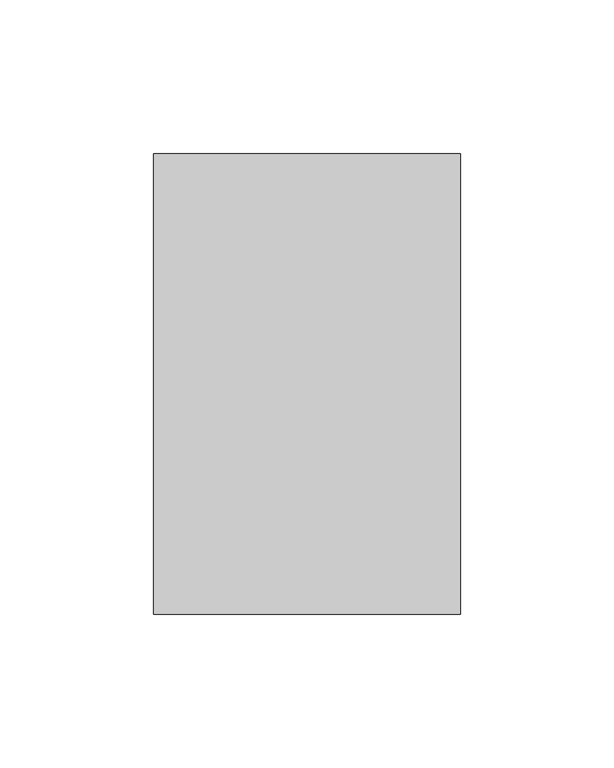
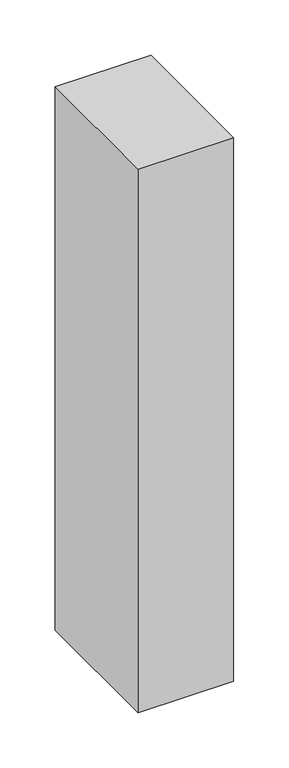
"""IFC4 building model written with IfcOpenShell, lengths in millimetres: member geometry, 矩形竖梃 : 教学楼 – 矩形竖梃 – 100x150mm."""

import ifcopenshell
import ifcopenshell.guid

model = None  # the IFC model being written
_history = None  # IfcOwnerHistory: only IFC2X3 demands one
_inside = {}  # id of a spatial element -> (the spatial element, [elements in it])
_under = {}  # id of a project, library or spatial element -> (it, [spatial elements below it])
_declared = {}  # id of a project -> (the project, [libraries it declares])
_typed = {}  # id of a type object -> (the type object, [elements of that type])
_made_of = {}  # id of a material, layer set ... -> (it, [elements and type objects made of it])


def new_model(schema):
    """Start an empty IFC model of exactly this schema.

    Asked for "IFC4X3", IfcOpenShell would pick the latest addendum, in which some entities
    have other attributes; the version numbers below select the first issue.
    IFC2X3 requires an IfcOwnerHistory on every rooted entity: one is made here for all.
    """
    global model, _history
    if schema == "IFC4X3":
        model = ifcopenshell.file(schema_version=(4, 3, 0, 0))
    else:
        model = ifcopenshell.file(schema=schema)
    _inside.clear()
    _under.clear()
    _declared.clear()
    _typed.clear()
    _made_of.clear()
    _history = None
    if model.schema == "IFC2X3":
        org = make("IfcOrganization", Name="unknown")
        user = make(
            "IfcPersonAndOrganization",
            ThePerson=make("IfcPerson", FamilyName="unknown"),
            TheOrganization=org,
        )
        app = make(
            "IfcApplication",
            ApplicationDeveloper=org,
            Version="unknown",
            ApplicationFullName="unknown",
            ApplicationIdentifier="unknown",
        )
        _history = make(
            "IfcOwnerHistory",
            OwningUser=user,
            OwningApplication=app,
            ChangeAction="ADDED",
            CreationDate=0,
        )
    return model


def make(cls, **values):
    """One entity of the class cls with the attributes given. An attribute that is None is left unset."""
    return model.create_entity(
        cls, **{name: value for name, value in values.items() if value is not None}
    )


def rooted(cls, **values):
    """An entity with a GlobalId (a new one), such as an element, a storey or a relation."""
    return make(cls, GlobalId=ifcopenshell.guid.new(), OwnerHistory=_history, **values)


def si_unit(unit_type, name, prefix=None):
    """IfcSIUnit, for example si_unit("LENGTHUNIT", "METRE", prefix="MILLI")."""
    return make("IfcSIUnit", UnitType=unit_type, Prefix=prefix, Name=name)


def assignment(units):
    """IfcUnitAssignment: the units of a project."""
    return None if units is None else make("IfcUnitAssignment", Units=units)


def point(xyz):
    """IfcCartesianPoint."""
    return None if xyz is None else make("IfcCartesianPoint", Coordinates=xyz)


def direction(xyz):
    """IfcDirection."""
    return None if xyz is None else make("IfcDirection", DirectionRatios=xyz)


def frame(location, z_axis=None, x_axis=None):
    """IfcAxis2Placement3D, a coordinate frame: its origin and axes. An axis left out is left unset."""
    return make(
        "IfcAxis2Placement3D",
        Location=point(location),
        Axis=direction(z_axis),
        RefDirection=direction(x_axis),
    )


def origin():
    """The frame at (0, 0, 0) with its axes left unset."""
    return frame((0.0, 0.0, 0.0))


def place(relative_to, where):
    """IfcLocalPlacement: puts the frame where relative to a parent placement (None: the world)."""
    return make(
        "IfcLocalPlacement", PlacementRelTo=relative_to, RelativePlacement=where
    )


def context(
    kind, dimensions, precision=None, world=None, true_north=None, identifier=None
):
    """IfcGeometricRepresentationContext, for example the 3D "Model" context."""
    return make(
        "IfcGeometricRepresentationContext",
        ContextIdentifier=identifier,
        ContextType=kind,
        CoordinateSpaceDimension=dimensions,
        Precision=precision,
        WorldCoordinateSystem=world,
        TrueNorth=true_north,
    )


def project(units=None, contexts=None):
    """IfcProject with its units and contexts."""
    return rooted(
        "IfcProject",
        Name="project",
        RepresentationContexts=contexts,
        UnitsInContext=assignment(units),
    )


def spatial(cls, under=None, at=None, **own):
    """A site, building, storey or space (cls), placed at a placement, below another one or the project."""
    s = rooted(cls, ObjectPlacement=at, **own)
    if under is not None:
        _under.setdefault(under.id(), (under, []))[1].append(s)
    return s


def polyline(points):
    """IfcPolyline through the points."""
    return make("IfcPolyline", Points=[point(p) for p in points])


def outline(outer, holes=None, kind="AREA"):
    """IfcArbitraryClosedProfileDef: a profile drawn as a closed curve; with holes, ...WithVoids."""
    if holes is None:
        return make("IfcArbitraryClosedProfileDef", ProfileType=kind, OuterCurve=outer)
    return make(
        "IfcArbitraryProfileDefWithVoids",
        ProfileType=kind,
        OuterCurve=outer,
        InnerCurves=holes,
    )


def extrude(swept, where, along, depth):
    """IfcExtrudedAreaSolid: the profile swept, set in the frame where, extruded along a direction by depth."""
    return make(
        "IfcExtrudedAreaSolid",
        SweptArea=swept,
        Position=where,
        ExtrudedDirection=direction(along),
        Depth=depth,
    )


def shape(context_of_items, identifier, shape_type, items):
    """IfcShapeRepresentation: the items that make up one representation, for example the "Body"."""
    return make(
        "IfcShapeRepresentation",
        ContextOfItems=context_of_items,
        RepresentationIdentifier=identifier,
        RepresentationType=shape_type,
        Items=items,
    )


def source(mapping_origin, context_of_items, identifier, shape_type, items):
    """IfcRepresentationMap: a shape defined once, which mapped items show again and again."""
    return make(
        "IfcRepresentationMap",
        MappingOrigin=mapping_origin,
        MappedRepresentation=shape(context_of_items, identifier, shape_type, items),
    )


def transform(
    local_origin,
    x_axis=None,
    y_axis=None,
    z_axis=None,
    scale=None,
    scale2=None,
    scale3=None,
    uniform=True,
):
    """IfcCartesianTransformationOperator3D, or its non-uniform kind. x_axis, y_axis, z_axis: its Axis1, 2, 3."""
    if uniform:
        return make(
            "IfcCartesianTransformationOperator3D",
            Axis1=direction(x_axis),
            Axis2=direction(y_axis),
            LocalOrigin=point(local_origin),
            Scale=scale,
            Axis3=direction(z_axis),
        )
    return make(
        "IfcCartesianTransformationOperator3DnonUniform",
        Axis1=direction(x_axis),
        Axis2=direction(y_axis),
        LocalOrigin=point(local_origin),
        Scale=scale,
        Axis3=direction(z_axis),
        Scale2=scale2,
        Scale3=scale3,
    )


def mapped(mapping_source, mapping_target):
    """IfcMappedItem: shows the shape of a source again, moved by a transform."""
    return make(
        "IfcMappedItem", MappingSource=mapping_source, MappingTarget=mapping_target
    )


def made_of(thing, what):
    """Note that an element or type object is made of a material, layer set ...; save() writes the relation."""
    if what is not None:
        _made_of.setdefault(what.id(), (what, []))[1].append(thing)
    return thing


def element(
    cls,
    number,
    at=None,
    inside=None,
    cuts=None,
    type_object=None,
    material=None,
    context=None,
    identifier="Body",
    shape_type=None,
    held_by="IfcProductDefinitionShape",
    body=None,
    shapes=None,
    **own,
):
    """One element of the class cls, such as IfcWall. Its Tag is "e" and its number.

    at: its placement. inside: the storey or other place that contains it. cuts: it is an
    opening in that element (IfcRelVoidsElement). A single representation is given by context,
    identifier, shape_type and body (its items); several are given by shapes. held_by: the class
    of the entity that holds the representations. save() writes the other relations.
    """
    e = rooted(cls, Tag="e%d" % number, ObjectPlacement=at, **own)
    if body is not None:
        shapes = [shape(context, identifier, shape_type, body)]
    if shapes is not None:
        e.Representation = make(held_by, Representations=shapes)
    if inside is not None:
        _inside.setdefault(inside.id(), (inside, []))[1].append(e)
    if cuts is not None:
        rooted(
            "IfcRelVoidsElement", RelatingBuildingElement=cuts, RelatedOpeningElement=e
        )
    if type_object is not None:
        _typed.setdefault(type_object.id(), (type_object, []))[1].append(e)
    return made_of(e, material)


def aggregate(whole, parts):
    """IfcRelAggregates: a whole, such as a stair, and the parts it consists of."""
    return rooted("IfcRelAggregates", RelatingObject=whole, RelatedObjects=parts)


def save(model, path):
    """Write the relations noted so far, then the file.

    IfcRelAggregates (storeys below a building ...), IfcRelContainedInSpatialStructure (elements
    in a storey), IfcRelDefinesByType, IfcRelAssociatesMaterial and IfcRelDeclares: one each for
    every whole, place, type object, material and project.
    """
    for whole, parts in _under.values():
        aggregate(whole, parts)
    for where, things in _inside.values():
        rooted(
            "IfcRelContainedInSpatialStructure",
            RelatedElements=things,
            RelatingStructure=where,
        )
    for kind, things in _typed.values():
        rooted("IfcRelDefinesByType", RelatedObjects=things, RelatingType=kind)
    for what, things in _made_of.values():
        rooted("IfcRelAssociatesMaterial", RelatedObjects=things, RelatingMaterial=what)
    for by, libraries in _declared.values():
        rooted("IfcRelDeclares", RelatingContext=by, RelatedDefinitions=libraries)
    model.write(path)


def member_4507a15d(model_context):
    return source(origin(), model_context, "Body", "SweptSolid", [
        extrude(outline(polyline([(0.0, 75.0), (0.0, -75.0), (-100.0, -75.0), (-100.0, 75.0), (0.0, 75.0)])), frame((0.0, 0.0, -600.0), z_axis=(0.0, 0.0, 1.0), x_axis=(1.0, 0.0, 0.0)), (0.0, 0.0, 1.0), 600.0),
    ])


if __name__ == "__main__":
    model = new_model("IFC4")
    model_context = context("Model", 3, world=origin())
    ifc_project = project(units=[si_unit("LENGTHUNIT", "METRE", prefix="MILLI")], contexts=[model_context])
    site = spatial("IfcSite", under=ifc_project)
    building = spatial("IfcBuilding", under=site)
    placement = place(None, origin())
    member_shape = member_4507a15d(model_context)
    element("IfcMember", 1, ObjectType="矩形竖梃 : 教学楼 – 矩形竖梃 – 100x150mm", at=placement, inside=building, context=model_context, shape_type="MappedRepresentation", body=[
        mapped(member_shape, transform((0.0, 0.0, 0.0), x_axis=(1.0, 0.0, 0.0), y_axis=(0.0, 1.0, 0.0), z_axis=(0.0, 0.0, 1.0))),
    ])
    save(model, "model.ifc")
